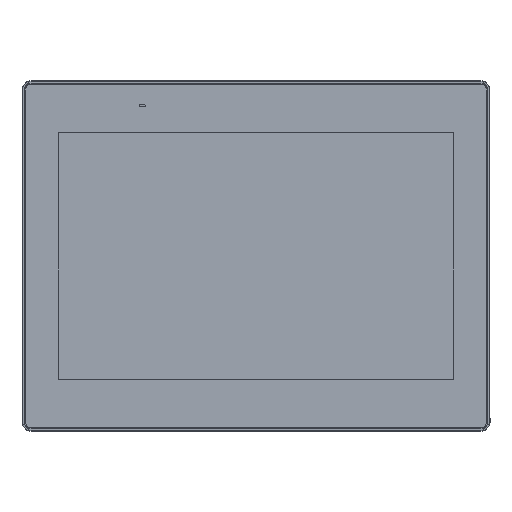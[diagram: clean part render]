
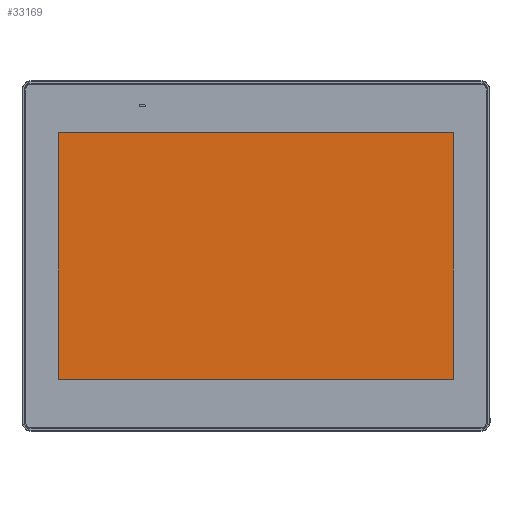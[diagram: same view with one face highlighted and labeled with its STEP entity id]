
A CAD part, top view. The second image highlights one B-rep face of the part: STEP entity #33169.
In plain terms, the highlighted planar face has unit normal (0, 0, 1).
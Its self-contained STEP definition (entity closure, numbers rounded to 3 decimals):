
#5 = VERTEX_POINT ( 'NONE', #11020 ) ;
#68 = LINE ( 'NONE', #4689, #24182 ) ;
#630 = DIRECTION ( 'NONE',  ( 1., 0., 0. ) ) ;
#664 = CARTESIAN_POINT ( 'NONE',  ( 286.41, 116.25, 49.75 ) ) ;
#849 = EDGE_CURVE ( 'NONE', #30918, #21711, #27922, .T. ) ;
#879 = CARTESIAN_POINT ( 'NONE',  ( 155.25, 34.05, 49.75 ) ) ;
#960 = CARTESIAN_POINT ( 'NONE',  ( 285.91, 197.95, 49.75 ) ) ;
#1923 = ORIENTED_EDGE ( 'NONE', *, *, #32330, .T. ) ;
#1987 = EDGE_CURVE ( 'NONE', #35631, #38317, #19112, .T. ) ;
#2375 = CIRCLE ( 'NONE', #38629, 0.5 ) ;
#3045 = VERTEX_POINT ( 'NONE', #35932 ) ;
#4084 = DIRECTION ( 'NONE',  ( 1., 0., 0. ) ) ;
#4689 = CARTESIAN_POINT ( 'NONE',  ( 155.25, 198.45, 49.75 ) ) ;
#5159 = ORIENTED_EDGE ( 'NONE', *, *, #12181, .T. ) ;
#5393 = AXIS2_PLACEMENT_3D ( 'NONE', #19205, #37435, #16003 ) ;
#7420 = DIRECTION ( 'NONE',  ( 0., 1., 0. ) ) ;
#8282 = ORIENTED_EDGE ( 'NONE', *, *, #39379, .T. ) ;
#8412 = CARTESIAN_POINT ( 'NONE',  ( 285.91, 198.45, 49.75 ) ) ;
#9980 = DIRECTION ( 'NONE',  ( 1., 0., 0. ) ) ;
#10391 = VECTOR ( 'NONE', #37927, 1000. ) ;
#10734 = VECTOR ( 'NONE', #7420, 1000. ) ;
#11020 = CARTESIAN_POINT ( 'NONE',  ( 24.59, 198.45, 49.75 ) ) ;
#11514 = AXIS2_PLACEMENT_3D ( 'NONE', #18834, #39971, #21970 ) ;
#11751 = CIRCLE ( 'NONE', #11514, 0.5 ) ;
#12181 = EDGE_CURVE ( 'NONE', #3045, #30918, #13153, .T. ) ;
#13153 = LINE ( 'NONE', #30781, #39486 ) ;
#13326 = CARTESIAN_POINT ( 'NONE',  ( 285.91, 34.05, 49.75 ) ) ;
#14688 = VERTEX_POINT ( 'NONE', #13326 ) ;
#14782 = ORIENTED_EDGE ( 'NONE', *, *, #849, .T. ) ;
#15601 = ORIENTED_EDGE ( 'NONE', *, *, #21575, .T. ) ;
#16003 = DIRECTION ( 'NONE',  ( 1., 0., 0. ) ) ;
#16569 = ORIENTED_EDGE ( 'NONE', *, *, #32439, .T. ) ;
#17127 = VERTEX_POINT ( 'NONE', #8412 ) ;
#18834 = CARTESIAN_POINT ( 'NONE',  ( 24.59, 197.95, 49.75 ) ) ;
#19112 = LINE ( 'NONE', #664, #10734 ) ;
#19205 = CARTESIAN_POINT ( 'NONE',  ( 24.59, 34.55, 49.75 ) ) ;
#19490 = DIRECTION ( 'NONE',  ( 0., 0., 1. ) ) ;
#19532 = AXIS2_PLACEMENT_3D ( 'NONE', #960, #22965, #4084 ) ;
#20520 = CARTESIAN_POINT ( 'NONE',  ( 24.59, 34.05, 49.75 ) ) ;
#21575 = EDGE_CURVE ( 'NONE', #38317, #17127, #33182, .T. ) ;
#21711 = VERTEX_POINT ( 'NONE', #20520 ) ;
#21970 = DIRECTION ( 'NONE',  ( 1., 0., 0. ) ) ;
#22513 = CARTESIAN_POINT ( 'NONE',  ( 155.25, 116.25, 49.75 ) ) ;
#22965 = DIRECTION ( 'NONE',  ( 0., 0., 1. ) ) ;
#24182 = VECTOR ( 'NONE', #29485, 1000. ) ;
#24464 = ORIENTED_EDGE ( 'NONE', *, *, #1987, .T. ) ;
#25646 = PLANE ( 'NONE',  #36267 ) ;
#27092 = LINE ( 'NONE', #879, #10391 ) ;
#27922 = CIRCLE ( 'NONE', #5393, 0.5 ) ;
#28706 = DIRECTION ( 'NONE',  ( 0., 0., 1. ) ) ;
#29485 = DIRECTION ( 'NONE',  ( -1., 0., 0. ) ) ;
#30781 = CARTESIAN_POINT ( 'NONE',  ( 24.09, 116.25, 49.75 ) ) ;
#30787 = DIRECTION ( 'NONE',  ( 0., -1., 0. ) ) ;
#30918 = VERTEX_POINT ( 'NONE', #35936 ) ;
#31054 = CARTESIAN_POINT ( 'NONE',  ( 286.41, 34.55, 49.75 ) ) ;
#31255 = FACE_OUTER_BOUND ( 'NONE', #37057, .T. ) ;
#32330 = EDGE_CURVE ( 'NONE', #21711, #14688, #27092, .T. ) ;
#32439 = EDGE_CURVE ( 'NONE', #17127, #5, #68, .T. ) ;
#33169 = ADVANCED_FACE ( 'NONE', ( #31255 ), #25646, .T. ) ;
#33182 = CIRCLE ( 'NONE', #19532, 0.5 ) ;
#35082 = EDGE_CURVE ( 'NONE', #5, #3045, #11751, .T. ) ;
#35460 = CARTESIAN_POINT ( 'NONE',  ( 286.41, 197.95, 49.75 ) ) ;
#35631 = VERTEX_POINT ( 'NONE', #31054 ) ;
#35932 = CARTESIAN_POINT ( 'NONE',  ( 24.09, 197.95, 49.75 ) ) ;
#35936 = CARTESIAN_POINT ( 'NONE',  ( 24.09, 34.55, 49.75 ) ) ;
#36267 = AXIS2_PLACEMENT_3D ( 'NONE', #22513, #28706, #9980 ) ;
#37057 = EDGE_LOOP ( 'NONE', ( #39074, #5159, #14782, #1923, #8282, #24464, #15601, #16569 ) ) ;
#37435 = DIRECTION ( 'NONE',  ( 0., 0., 1. ) ) ;
#37678 = CARTESIAN_POINT ( 'NONE',  ( 285.91, 34.55, 49.75 ) ) ;
#37927 = DIRECTION ( 'NONE',  ( 1., 0., 0. ) ) ;
#38317 = VERTEX_POINT ( 'NONE', #35460 ) ;
#38629 = AXIS2_PLACEMENT_3D ( 'NONE', #37678, #19490, #630 ) ;
#39074 = ORIENTED_EDGE ( 'NONE', *, *, #35082, .T. ) ;
#39379 = EDGE_CURVE ( 'NONE', #14688, #35631, #2375, .T. ) ;
#39486 = VECTOR ( 'NONE', #30787, 1000. ) ;
#39971 = DIRECTION ( 'NONE',  ( 0., 0., 1. ) ) ;
